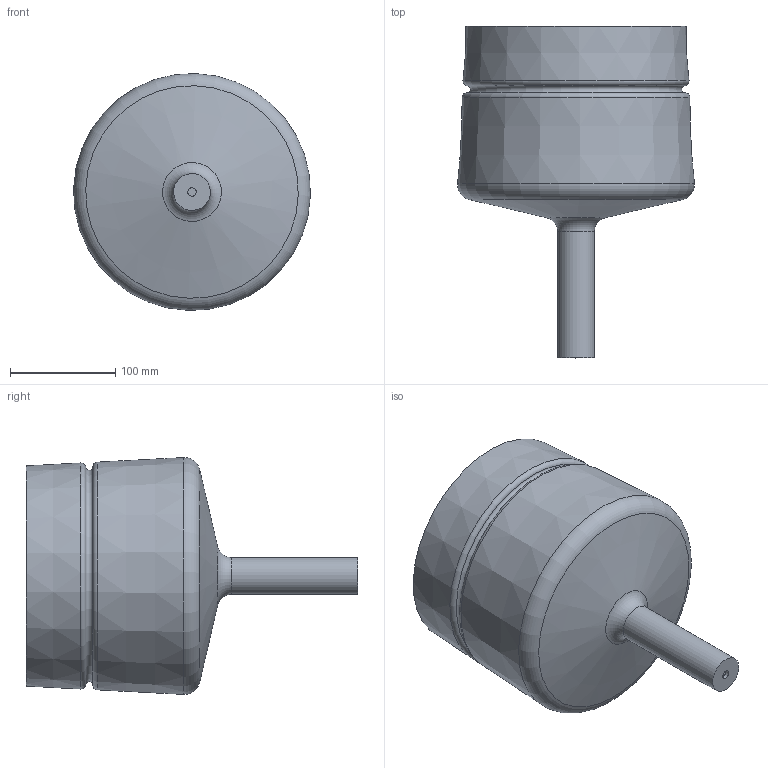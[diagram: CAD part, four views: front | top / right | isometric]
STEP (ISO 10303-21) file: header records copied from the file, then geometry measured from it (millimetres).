
FILE_DESCRIPTION(/* description */ (''),/* implementation_level */ '2;1');
FILE_NAME(/* name */ 'C:\Users\STEFANO\Desktop\1501-22 - ACORN SOSPENSIONE MEDIUM F.E\SEM.000009.stp',/* time_stamp */ '2019-09-10T15:47:45+02:00',/* author */ ('STEFANO'),/* organization */ (''),/* preprocessor_version */ 'ST-DEVELOPER v17',/* originating_system */ 'Autodesk Inventor 2019',/* authorisation */ '');
FILE_SCHEMA (('AUTOMOTIVE_DESIGN { 1 0 10303 214 3 1 1 }'));
Length unit declared in the file: millimetre
Products named in the file (3): SEM.000009; P08_026_1 - Corpo Medium; LUCE
Assembly tree (2 placements, depth 2):
  SEM.000009
    P08_026_1 - Corpo Medium
    LUCE
Bounding box: 224.85 x 315 x 224.85 mm (x, y, z)
Volume: 1131971.7 mm3; surface area: 380786.3 mm2
Topology: 2 solids, 2 shells, 30 faces, 89 edges, 65 vertices
Faces by surface type: torus 10, cone 8, cylinder 6, plane 6
Full cylindrical faces by diameter (mm): 8 x1, 27.5 x1, 35 x1, 100 x1, 120 x1, 150 x1
Entity records: 1198 total; most frequent: DIRECTION 234, CARTESIAN_POINT 189, ORIENTED_EDGE 178, AXIS2_PLACEMENT_3D 110, EDGE_CURVE 89, CIRCLE 75, VERTEX_POINT 65, EDGE_LOOP 34
